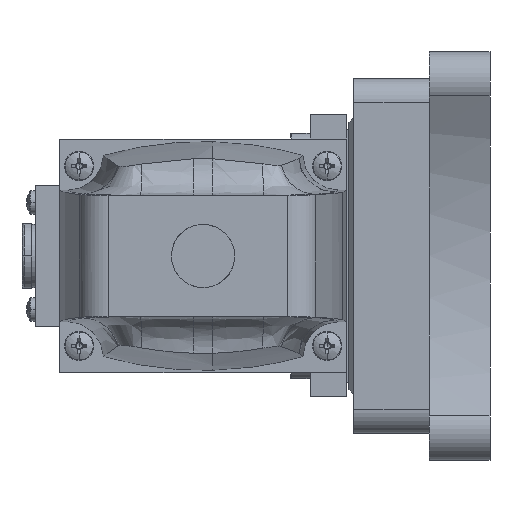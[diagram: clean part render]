
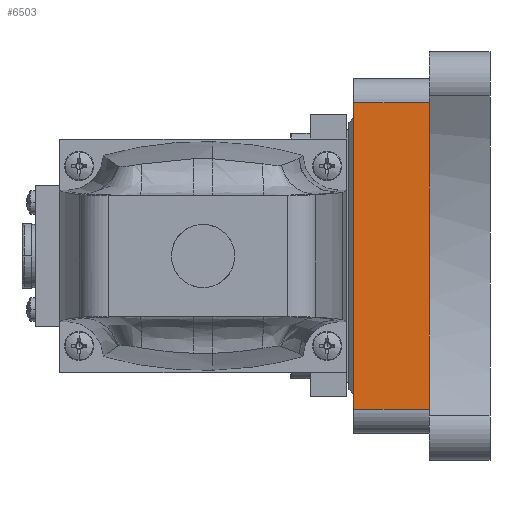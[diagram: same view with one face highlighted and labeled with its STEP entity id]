
A CAD part, left-side view. The second image highlights one B-rep face of the part: STEP entity #6503.
In plain terms, the highlighted planar face has unit normal (-1, 0, 0).
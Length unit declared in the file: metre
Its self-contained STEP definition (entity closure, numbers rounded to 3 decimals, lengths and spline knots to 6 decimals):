
#611 = CARTESIAN_POINT ( 'NONE',  ( -0.094, -0.033, 0.063 ) ) ;
#1241 = CARTESIAN_POINT ( 'NONE',  ( -0.094, -0.002, 0.063 ) ) ;
#1493 = LINE ( 'NONE', #5820, #13650 ) ;
#1603 = EDGE_CURVE ( 'NONE', #12279, #12575, #6186, .T. ) ;
#1880 = PLANE ( 'NONE',  #4723 ) ;
#1928 = DIRECTION ( 'NONE',  ( 1., 0., 0. ) ) ;
#1944 = DIRECTION ( 'NONE',  ( 0., 0., -1. ) ) ;
#2281 = LINE ( 'NONE', #4537, #14811 ) ;
#2701 = CARTESIAN_POINT ( 'NONE',  ( -0.094, -0.033, 0.063 ) ) ;
#3065 = CARTESIAN_POINT ( 'NONE',  ( -0.094, -0.0175, 0.063 ) ) ;
#3333 = VECTOR ( 'NONE', #4032, 1. ) ;
#3769 = VERTEX_POINT ( 'NONE', #8050 ) ;
#4032 = DIRECTION ( 'NONE',  ( 0., 1., 0. ) ) ;
#4372 = VERTEX_POINT ( 'NONE', #1241 ) ;
#4537 = CARTESIAN_POINT ( 'NONE',  ( -0.094, -0.033, 0. ) ) ;
#4548 = DIRECTION ( 'NONE',  ( 0., 0., -1. ) ) ;
#4723 = AXIS2_PLACEMENT_3D ( 'NONE', #2701, #1928, #1944 ) ;
#5426 = DIRECTION ( 'NONE',  ( 0., 0., -1. ) ) ;
#5622 = EDGE_CURVE ( 'NONE', #4372, #12279, #10348, .T. ) ;
#5820 = CARTESIAN_POINT ( 'NONE',  ( -0.094, -0.033, 0. ) ) ;
#6186 = LINE ( 'NONE', #12780, #12788 ) ;
#6480 = CARTESIAN_POINT ( 'NONE',  ( -0.094, -0.002, -0.063 ) ) ;
#6503 = ADVANCED_FACE ( 'NONE', ( #8791 ), #1880, .F. ) ;
#6599 = CARTESIAN_POINT ( 'NONE',  ( -0.094, -0.002, 0. ) ) ;
#6875 = EDGE_CURVE ( 'NONE', #3769, #12575, #1493, .T. ) ;
#7999 = EDGE_CURVE ( 'NONE', #15397, #3769, #2281, .T. ) ;
#8050 = CARTESIAN_POINT ( 'NONE',  ( -0.094, -0.033, 0. ) ) ;
#8791 = FACE_OUTER_BOUND ( 'NONE', #15382, .T. ) ;
#9065 = DIRECTION ( 'NONE',  ( 0., 0., -1. ) ) ;
#9523 = ORIENTED_EDGE ( 'NONE', *, *, #6875, .F. ) ;
#9845 = EDGE_CURVE ( 'NONE', #15397, #4372, #13446, .T. ) ;
#10348 = LINE ( 'NONE', #6599, #13682 ) ;
#10400 = ORIENTED_EDGE ( 'NONE', *, *, #1603, .T. ) ;
#12233 = ORIENTED_EDGE ( 'NONE', *, *, #9845, .T. ) ;
#12279 = VERTEX_POINT ( 'NONE', #6480 ) ;
#12575 = VERTEX_POINT ( 'NONE', #15741 ) ;
#12780 = CARTESIAN_POINT ( 'NONE',  ( -0.094, -0.0175, -0.063 ) ) ;
#12788 = VECTOR ( 'NONE', #12942, 1. ) ;
#12942 = DIRECTION ( 'NONE',  ( 0., -1., 0. ) ) ;
#13446 = LINE ( 'NONE', #3065, #3333 ) ;
#13650 = VECTOR ( 'NONE', #5426, 1. ) ;
#13682 = VECTOR ( 'NONE', #9065, 1. ) ;
#14588 = ORIENTED_EDGE ( 'NONE', *, *, #7999, .F. ) ;
#14602 = ORIENTED_EDGE ( 'NONE', *, *, #5622, .T. ) ;
#14811 = VECTOR ( 'NONE', #4548, 1. ) ;
#15382 = EDGE_LOOP ( 'NONE', ( #10400, #9523, #14588, #12233, #14602 ) ) ;
#15397 = VERTEX_POINT ( 'NONE', #611 ) ;
#15741 = CARTESIAN_POINT ( 'NONE',  ( -0.094, -0.033, -0.063 ) ) ;
